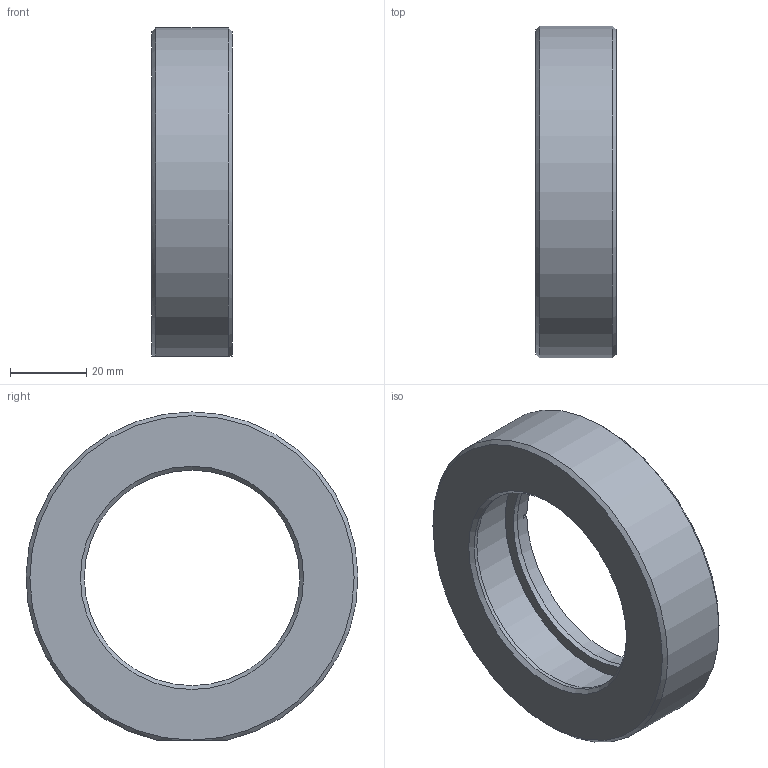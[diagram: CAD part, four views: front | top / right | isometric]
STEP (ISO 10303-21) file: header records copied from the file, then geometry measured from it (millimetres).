
FILE_DESCRIPTION((''),'2;1');
FILE_NAME('S:\1規格品図面ﾃﾞｰﾀ\OpticalHard\02_海外製品\2_Holders\LHF\LHF-2.5''''EE\LHF-2.5''''EE.stp','2007-09-14T17:34:04',('okegawa'),(''),'Autodesk Inventor 11','Autodesk Inventor 11','');
FILE_SCHEMA(('AUTOMOTIVE_DESIGN { 1 0 10303 214 1 1 1 1 }'));
Length unit declared in the file: millimetre
Products named in the file (1): LHF-2.5''EE-C1-S01
Bounding box: 21 x 86.98 x 86 mm (x, y, z)
Volume: 61824.5 mm3; surface area: 17483.2 mm2
Topology: 1 solids, 1 shells, 43 faces, 102 edges, 65 vertices
Faces by surface type: plane 19, bspline 12, cylinder 8, cone 4
Full cylindrical faces by diameter (mm): 56.5 x1, 57.5 x2, 63.5 x1
Entity records: 1255 total; most frequent: CARTESIAN_POINT 342, DIRECTION 186, ORIENTED_EDGE 168, EDGE_CURVE 84, AXIS2_PLACEMENT_3D 74, EDGE_LOOP 60, VERTEX_POINT 58, FACE_OUTER_BOUND 43
